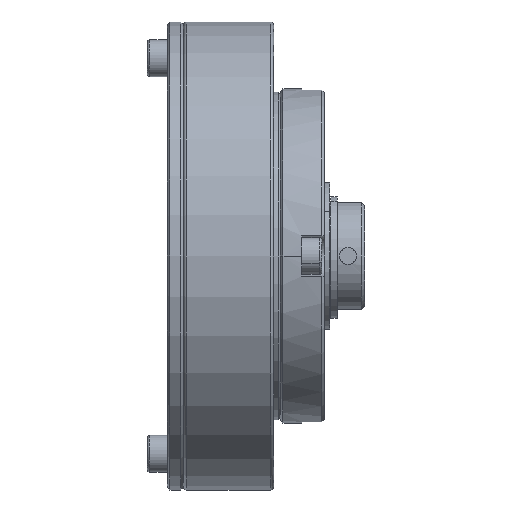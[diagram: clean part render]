
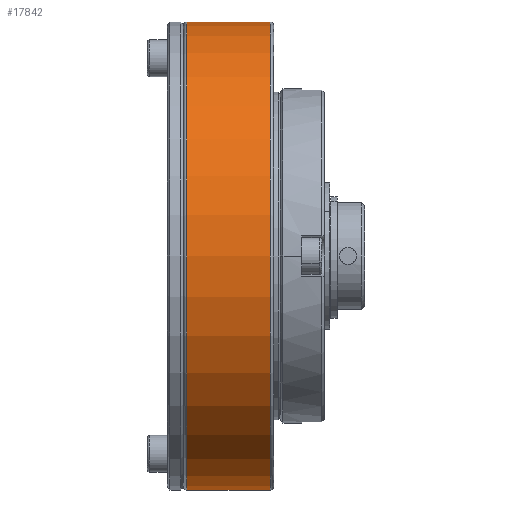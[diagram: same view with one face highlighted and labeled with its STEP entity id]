
A CAD part, front view. The second image highlights one B-rep face of the part: STEP entity #17842.
In plain terms, the highlighted cylindrical face has radius 35 mm (diameter 70 mm), a partial arc.
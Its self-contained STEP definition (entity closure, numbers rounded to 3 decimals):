
#309 = AXIS2_PLACEMENT_3D ( 'NONE', #13884, #3945, #15543 ) ;
#359 = AXIS2_PLACEMENT_3D ( 'NONE', #13517, #11821, #1919 ) ;
#1919 = DIRECTION ( 'NONE',  ( 0., 0., 1. ) ) ;
#2413 = EDGE_CURVE ( 'NONE', #14022, #8308, #15261, .T. ) ;
#2745 = VERTEX_POINT ( 'NONE', #13543 ) ;
#3558 = CARTESIAN_POINT ( 'NONE',  ( 0., 0., 35. ) ) ;
#3761 = ORIENTED_EDGE ( 'NONE', *, *, #15806, .F. ) ;
#3808 = EDGE_CURVE ( 'NONE', #2745, #13856, #16249, .T. ) ;
#3945 = DIRECTION ( 'NONE',  ( -1., 0., 0. ) ) ;
#4366 = LINE ( 'NONE', #3558, #7723 ) ;
#4860 = EDGE_CURVE ( 'NONE', #13856, #14022, #8225, .T. ) ;
#6956 = CARTESIAN_POINT ( 'NONE',  ( 0., 0., -35. ) ) ;
#7723 = VECTOR ( 'NONE', #18468, 1000. ) ;
#8225 = LINE ( 'NONE', #6956, #12673 ) ;
#8308 = VERTEX_POINT ( 'NONE', #16672 ) ;
#8773 = CARTESIAN_POINT ( 'NONE',  ( 0.5, 0., 0. ) ) ;
#8874 = CARTESIAN_POINT ( 'NONE',  ( 13., 0., -35. ) ) ;
#9598 = FACE_OUTER_BOUND ( 'NONE', #12059, .T. ) ;
#10280 = ORIENTED_EDGE ( 'NONE', *, *, #2413, .T. ) ;
#10446 = DIRECTION ( 'NONE',  ( 0., 0., -1. ) ) ;
#11821 = DIRECTION ( 'NONE',  ( -1., 0., 0. ) ) ;
#12059 = EDGE_LOOP ( 'NONE', ( #16406, #14720, #10280, #3761 ) ) ;
#12532 = CARTESIAN_POINT ( 'NONE',  ( 0.5, 0., -35. ) ) ;
#12673 = VECTOR ( 'NONE', #16888, 1000. ) ;
#12812 = AXIS2_PLACEMENT_3D ( 'NONE', #8773, #20411, #10446 ) ;
#13517 = CARTESIAN_POINT ( 'NONE',  ( 0., 0., 0. ) ) ;
#13543 = CARTESIAN_POINT ( 'NONE',  ( 13., 0., 35. ) ) ;
#13856 = VERTEX_POINT ( 'NONE', #8874 ) ;
#13884 = CARTESIAN_POINT ( 'NONE',  ( 13., 0., 0. ) ) ;
#14022 = VERTEX_POINT ( 'NONE', #12532 ) ;
#14720 = ORIENTED_EDGE ( 'NONE', *, *, #4860, .T. ) ;
#15261 = CIRCLE ( 'NONE', #12812, 35. ) ;
#15543 = DIRECTION ( 'NONE',  ( 0., 0., 1. ) ) ;
#15806 = EDGE_CURVE ( 'NONE', #2745, #8308, #4366, .T. ) ;
#16249 = CIRCLE ( 'NONE', #309, 35. ) ;
#16406 = ORIENTED_EDGE ( 'NONE', *, *, #3808, .T. ) ;
#16672 = CARTESIAN_POINT ( 'NONE',  ( 0.5, 0., 35. ) ) ;
#16888 = DIRECTION ( 'NONE',  ( -1., 0., 0. ) ) ;
#17842 = ADVANCED_FACE ( 'NONE', ( #9598 ), #17907, .T. ) ;
#17907 = CYLINDRICAL_SURFACE ( 'NONE', #359, 35. ) ;
#18468 = DIRECTION ( 'NONE',  ( -1., 0., 0. ) ) ;
#20411 = DIRECTION ( 'NONE',  ( 1., 0., 0. ) ) ;
